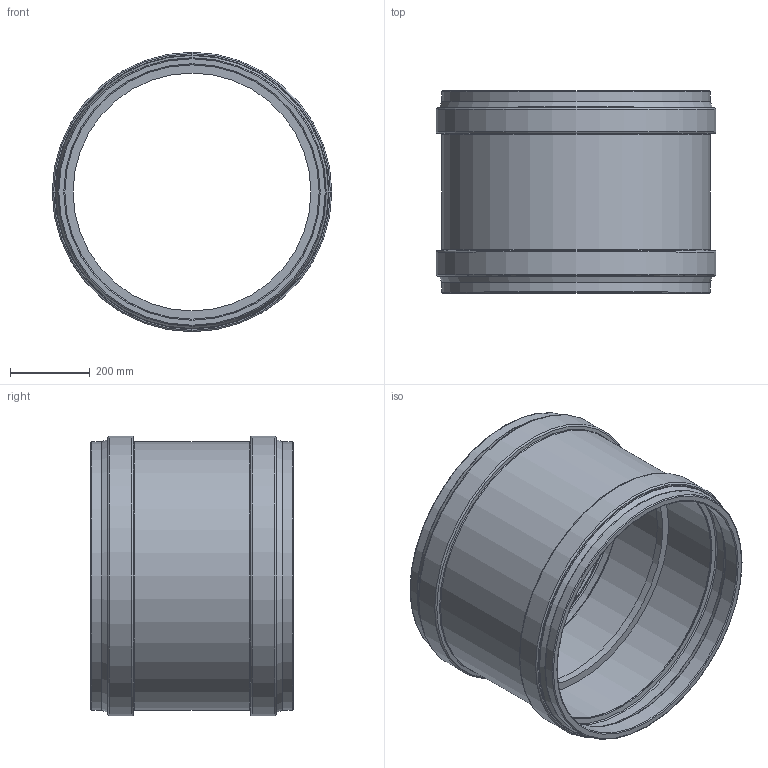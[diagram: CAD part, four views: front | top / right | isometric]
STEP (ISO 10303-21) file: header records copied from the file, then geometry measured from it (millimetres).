
FILE_DESCRIPTION(/* description */ (''),/* implementation_level */ '2;1');
FILE_NAME(/* name */ '771175z.stp',/* time_stamp */ '2026-02-13T10:00:50+01:00',/* author */ ('corinna'),/* organization */ (''),/* preprocessor_version */ 'ST-DEVELOPER v20',/* originating_system */ 'Autodesk Inventor 2024',/* authorisation */ '');
FILE_SCHEMA (('AUTOMOTIVE_DESIGN { 1 0 10303 214 3 1 1 }'));
Length unit declared in the file: millimetre
Products named in the file (1): 771175z
Bounding box: 699 x 506 x 699 mm (x, y, z)
Volume: 20134183.1 mm3; surface area: 2406194.2 mm2
Topology: 1 solids, 1 shells, 60 faces, 162 edges, 108 vertices
Faces by surface type: torus 26, cone 14, cylinder 14, plane 6
Full cylindrical faces by diameter (mm): 595 x1, 635.8 x2, 636.3 x4, 670 x2, 670.6 x1, 671.1 x2, 699 x2
Entity records: 2027 total; most frequent: DIRECTION 418, CARTESIAN_POINT 331, ORIENTED_EDGE 324, AXIS2_PLACEMENT_3D 195, EDGE_CURVE 162, CIRCLE 134, VERTEX_POINT 108, EDGE_LOOP 66
